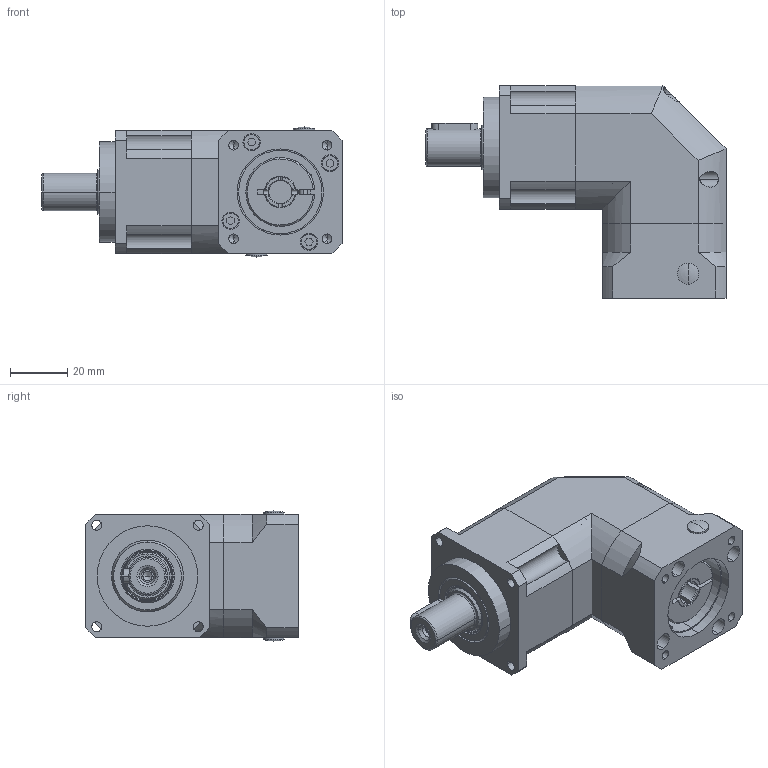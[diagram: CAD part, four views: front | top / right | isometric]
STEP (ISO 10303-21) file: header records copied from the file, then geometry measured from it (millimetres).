
FILE_DESCRIPTION (( 'STEP AP203' ), '1' );
FILE_NAME ('PHFZ042-L1-8-30-46-M4.STEP', '2020-06-27T06:09:49', ( 'ylmfeng' ), ( 'ylmfeng.com' ), 'SwSTEP 2.0', 'SolidWorks 2014', '' );
FILE_SCHEMA (( 'CONFIG_CONTROL_DESIGN' ));
Length unit declared in the file: millimetre
Products named in the file (1): PHFZ042-L1-8-30-46-M4
Bounding box: 104.5 x 74 x 45.3 mm (x, y, z)
Volume: 172402.9 mm3; surface area: 42995.7 mm2
Topology: 19 solids, 19 shells, 559 faces, 1382 edges, 873 vertices
Faces by surface type: plane 220, cylinder 194, cone 93, torus 36, bspline 16
Entity records: 17543 total; most frequent: CARTESIAN_POINT 4154, DIRECTION 2844, ORIENTED_EDGE 2720, EDGE_CURVE 1360, AXIS2_PLACEMENT_3D 1099, VERTEX_POINT 873, LINE 646, VECTOR 646
